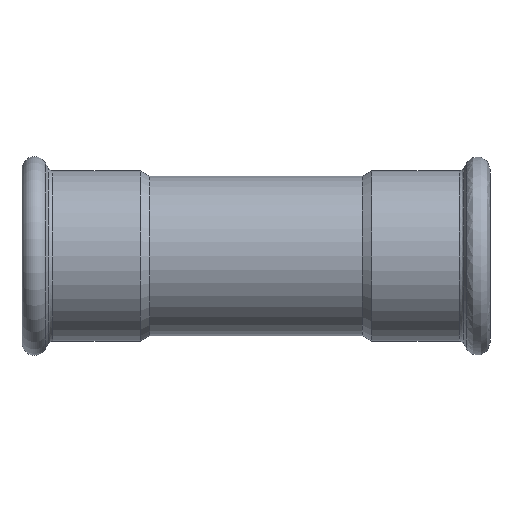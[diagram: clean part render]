
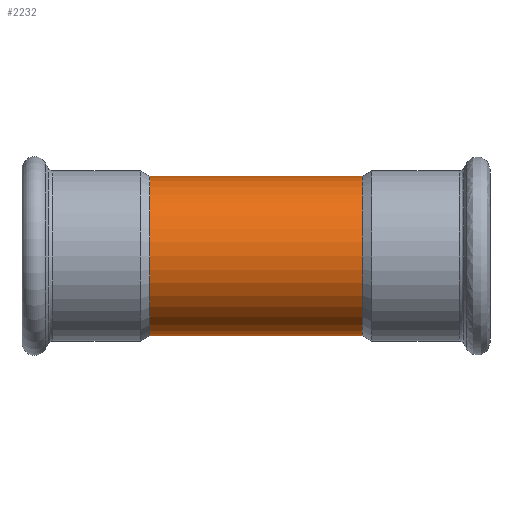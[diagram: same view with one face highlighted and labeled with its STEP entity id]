
A CAD part, front view. The second image highlights one B-rep face of the part: STEP entity #2232.
In plain terms, the highlighted cylindrical face has radius 32 mm (diameter 64 mm), a full revolution.
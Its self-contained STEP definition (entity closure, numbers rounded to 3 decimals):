
#2020=CARTESIAN_POINT('',(0.,27.972,-15.543));
#2021=VERTEX_POINT('',#2020);
#2104=CARTESIAN_POINT('',(0.,27.972,-15.543));
#2105=CARTESIAN_POINT('',(0.,27.972,-15.543));
#2106=CARTESIAN_POINT('',(0.,27.972,-15.543));
#2107=CARTESIAN_POINT('',(0.,27.972,-15.543));
#2108=CARTESIAN_POINT('',(-0.482,27.972,-15.543));
#2109=CARTESIAN_POINT('',(-1.127,27.986,-15.518));
#2110=CARTESIAN_POINT('',(-2.41,28.05,-15.401));
#2111=CARTESIAN_POINT('',(-3.834,28.173,-15.176));
#2112=CARTESIAN_POINT('',(-5.215,28.369,-14.809));
#2113=CARTESIAN_POINT('',(-6.413,28.576,-14.404));
#2114=CARTESIAN_POINT('',(-7.583,28.808,-13.939));
#2115=CARTESIAN_POINT('',(-9.102,29.172,-13.165));
#2116=CARTESIAN_POINT('',(-10.882,29.674,-12.006));
#2117=CARTESIAN_POINT('',(-12.259,30.127,-10.818));
#2118=CARTESIAN_POINT('',(-13.477,30.562,-9.504));
#2119=CARTESIAN_POINT('',(-14.387,30.906,-8.34));
#2120=CARTESIAN_POINT('',(-15.314,31.278,-6.824));
#2121=CARTESIAN_POINT('',(-15.994,31.562,-5.342));
#2122=CARTESIAN_POINT('',(-16.369,31.724,-4.228));
#2123=CARTESIAN_POINT('',(-16.677,31.857,-3.091));
#2124=CARTESIAN_POINT('',(-16.925,31.967,-1.78));
#2125=CARTESIAN_POINT('',(-17.027,32.012,-0.158));
#2126=CARTESIAN_POINT('',(-16.973,31.988,1.019));
#2127=CARTESIAN_POINT('',(-16.846,31.932,2.195));
#2128=CARTESIAN_POINT('',(-16.563,31.807,3.699));
#2129=CARTESIAN_POINT('',(-16.024,31.575,5.278));
#2130=CARTESIAN_POINT('',(-15.353,31.295,6.709));
#2131=CARTESIAN_POINT('',(-14.765,31.057,7.741));
#2132=CARTESIAN_POINT('',(-14.031,30.771,8.801));
#2133=CARTESIAN_POINT('',(-13.161,30.447,9.873));
#2134=CARTESIAN_POINT('',(-12.326,30.153,10.726));
#2135=CARTESIAN_POINT('',(-11.121,29.757,11.788));
#2136=CARTESIAN_POINT('',(-9.644,29.31,12.867));
#2137=CARTESIAN_POINT('',(-7.478,28.771,14.022));
#2138=CARTESIAN_POINT('',(-5.59,28.42,14.711));
#2139=CARTESIAN_POINT('',(-4.354,28.252,15.029));
#2140=CARTESIAN_POINT('',(-3.522,28.153,15.212));
#2141=CARTESIAN_POINT('',(-2.16,28.023,15.452));
#2142=CARTESIAN_POINT('',(-0.221,27.947,15.588));
#2143=CARTESIAN_POINT('',(1.496,27.996,15.499));
#2144=CARTESIAN_POINT('',(3.196,28.11,15.293));
#2145=CARTESIAN_POINT('',(5.085,28.327,14.892));
#2146=CARTESIAN_POINT('',(7.243,28.727,14.11));
#2147=CARTESIAN_POINT('',(8.721,29.081,13.36));
#2148=CARTESIAN_POINT('',(10.127,29.456,12.515));
#2149=CARTESIAN_POINT('',(11.274,29.803,11.677));
#2150=CARTESIAN_POINT('',(12.449,30.196,10.605));
#2151=CARTESIAN_POINT('',(13.408,30.536,9.592));
#2152=CARTESIAN_POINT('',(14.142,30.814,8.653));
#2153=CARTESIAN_POINT('',(15.017,31.157,7.337));
#2154=CARTESIAN_POINT('',(15.849,31.499,5.78));
#2155=CARTESIAN_POINT('',(16.56,31.806,3.714));
#2156=CARTESIAN_POINT('',(16.852,31.934,2.164));
#2157=CARTESIAN_POINT('',(16.975,31.989,0.994));
#2158=CARTESIAN_POINT('',(17.016,32.007,0.01));
#2159=CARTESIAN_POINT('',(16.976,31.989,-0.975));
#2160=CARTESIAN_POINT('',(16.854,31.935,-2.149));
#2161=CARTESIAN_POINT('',(16.565,31.808,-3.692));
#2162=CARTESIAN_POINT('',(15.989,31.559,-5.382));
#2163=CARTESIAN_POINT('',(15.128,31.202,-7.164));
#2164=CARTESIAN_POINT('',(14.283,30.865,-8.49));
#2165=CARTESIAN_POINT('',(13.345,30.515,-9.646));
#2166=CARTESIAN_POINT('',(12.667,30.273,-10.378));
#2167=CARTESIAN_POINT('',(11.802,29.977,-11.213));
#2168=CARTESIAN_POINT('',(10.632,29.604,-12.168));
#2169=CARTESIAN_POINT('',(9.106,29.174,-13.162));
#2170=CARTESIAN_POINT('',(7.444,28.774,-14.01));
#2171=CARTESIAN_POINT('',(5.676,28.434,-14.686));
#2172=CARTESIAN_POINT('',(3.839,28.174,-15.175));
#2173=CARTESIAN_POINT('',(1.935,28.009,-15.476));
#2174=CARTESIAN_POINT('',(0.643,27.972,-15.543));
#2175=CARTESIAN_POINT('',(0.,27.972,-15.543));
#2176=B_SPLINE_CURVE_WITH_KNOTS('',3,(#2104,#2105,#2106,#2107,#2108,#2109,#2110,#2111,#2112,#2113,#2114,#2115,#2116,#2117,#2118,#2119,#2120,#2121,#2122,#2123,#2124,#2125,#2126,#2127,#2128,#2129,#2130,#2131,#2132,#2133,#2134,#2135,#2136,#2137,#2138,#2139,#2140,#2141,#2142,#2143,#2144,#2145,#2146,#2147,#2148,#2149,#2150,#2151,#2152,#2153,#2154,#2155,#2156,#2157,#2158,#2159,#2160,#2161,#2162,#2163,#2164,#2165,#2166,#2167,#2168,#2169,#2170,#2171,#2172,#2173,#2174,#2175),.UNSPECIFIED.,.T.,.U.,(4,3,1,1,1,1,1,1,1,1,1,1,1,1,1,1,1,1,1,1,1,1,1,1,1,1,1,1,1,1,1,1,1,1,1,1,1,1,1,1,1,1,1,1,1,1,1,1,1,1,1,1,1,1,1,1,1,1,1,1,1,1,1,1,1,1,1,4),(-8.565,-8.565,-8.451,-8.412,-8.259,-8.107,-8.068,-7.954,-7.801,-7.648,-7.418,-7.342,-7.189,-7.036,-6.883,-6.768,-6.73,-6.577,-6.424,-6.309,-6.271,-6.118,-5.914,-5.838,-5.71,-5.608,-5.506,-5.353,-5.302,-5.098,-4.895,-4.691,-4.614,-4.589,-4.487,-4.283,-4.13,-4.079,-3.875,-3.671,-3.518,-3.467,-3.263,-3.161,-3.059,-2.906,-2.855,-2.651,-2.447,-2.294,-2.243,-2.141,-2.039,-1.988,-1.835,-1.632,-1.53,-1.326,-1.224,-1.147,-1.071,-0.918,-0.765,-0.612,-0.459,-0.306,-0.153,0.),.UNSPECIFIED.);
#2177=EDGE_CURVE('',#2021,#2021,#2176,.T.);
#2202=CARTESIAN_POINT('',(-21.327,0.,0.0));
#2203=DIRECTION('',(1.0,0.,0.0));
#2204=DIRECTION('',(0.0,1.0,0.0));
#2205=AXIS2_PLACEMENT_3D('',#2202,#2203,#2204);
#2206=CYLINDRICAL_SURFACE('',#2205,32.);
#2207=CARTESIAN_POINT('',(-42.654,32.,0.0));
#2208=VERTEX_POINT('',#2207);
#2209=CARTESIAN_POINT('',(-42.654,0.,0.0));
#2210=DIRECTION('',(1.0,0.0,0.0));
#2211=DIRECTION('',(0.0,1.0,0.0));
#2212=AXIS2_PLACEMENT_3D('',#2209,#2210,#2211);
#2213=CIRCLE('',#2212,32.);
#2214=EDGE_CURVE('',#2208,#2208,#2213,.T.);
#2215=ORIENTED_EDGE('',*,*,#2214,.T.);
#2216=EDGE_LOOP('',(#2215));
#2217=FACE_OUTER_BOUND('',#2216,.T.);
#2218=CARTESIAN_POINT('',(42.654,32.,0.0));
#2219=VERTEX_POINT('',#2218);
#2220=CARTESIAN_POINT('',(42.654,0.,0.0));
#2221=DIRECTION('',(1.0,0.0,0.0));
#2222=DIRECTION('',(0.0,1.0,0.0));
#2223=AXIS2_PLACEMENT_3D('',#2220,#2221,#2222);
#2224=CIRCLE('',#2223,32.);
#2225=EDGE_CURVE('',#2219,#2219,#2224,.T.);
#2226=ORIENTED_EDGE('',*,*,#2225,.F.);
#2227=EDGE_LOOP('',(#2226));
#2228=FACE_BOUND('',#2227,.T.);
#2229=ORIENTED_EDGE('',*,*,#2177,.F.);
#2230=EDGE_LOOP('',(#2229));
#2231=FACE_BOUND('',#2230,.T.);
#2232=ADVANCED_FACE('',(#2217,#2228,#2231),#2206,.T.);
